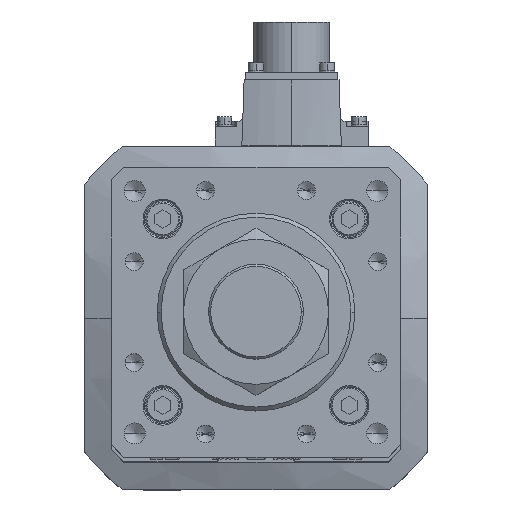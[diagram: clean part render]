
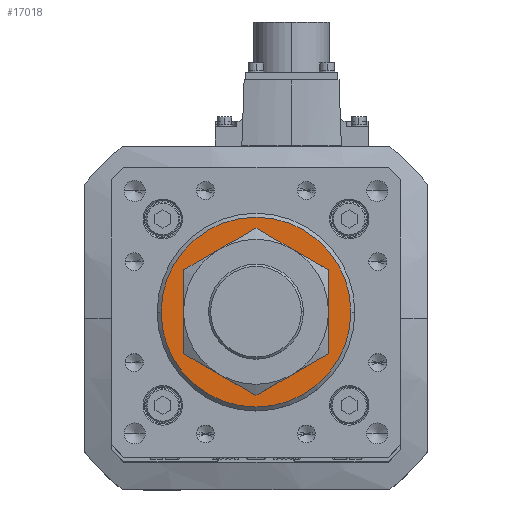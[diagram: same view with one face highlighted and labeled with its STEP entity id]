
A CAD part, top view. The second image highlights one B-rep face of the part: STEP entity #17018.
In plain terms, the highlighted planar face has unit normal (0, 0, 1).
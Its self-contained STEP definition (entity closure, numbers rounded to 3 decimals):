
#2437 = VERTEX_POINT ( 'NONE', #7601 ) ;
#3009 = FACE_BOUND ( 'NONE', #26597, .T. ) ;
#4341 = DIRECTION ( 'NONE',  ( 0., 0., 1. ) ) ;
#4764 = ORIENTED_EDGE ( 'NONE', *, *, #21523, .T. ) ;
#4985 = CARTESIAN_POINT ( 'NONE',  ( -23., 0., 1046. ) ) ;
#5706 = CIRCLE ( 'NONE', #35405, 36. ) ;
#7234 = CIRCLE ( 'NONE', #16959, 36. ) ;
#7601 = CARTESIAN_POINT ( 'NONE',  ( -36., 0., 1046. ) ) ;
#8125 = CARTESIAN_POINT ( 'NONE',  ( 0., 0., 1046. ) ) ;
#8464 = EDGE_CURVE ( 'NONE', #28778, #2437, #5706, .T. ) ;
#8491 = DIRECTION ( 'NONE',  ( 0., 0., -1. ) ) ;
#10481 = CARTESIAN_POINT ( 'NONE',  ( 36., 0., 1046. ) ) ;
#12954 = DIRECTION ( 'NONE',  ( 1., 0., 0. ) ) ;
#16959 = AXIS2_PLACEMENT_3D ( 'NONE', #31244, #25379, #28565 ) ;
#17018 = ADVANCED_FACE ( 'NONE', ( #3009, #35771 ), #27898, .T. ) ;
#19622 = AXIS2_PLACEMENT_3D ( 'NONE', #25581, #31196, #37055 ) ;
#19791 = EDGE_CURVE ( 'NONE', #32118, #35033, #27346, .T. ) ;
#20535 = EDGE_CURVE ( 'NONE', #2437, #28778, #7234, .T. ) ;
#21523 = EDGE_CURVE ( 'NONE', #35033, #32118, #29459, .T. ) ;
#21909 = ORIENTED_EDGE ( 'NONE', *, *, #19791, .T. ) ;
#23130 = EDGE_LOOP ( 'NONE', ( #32860, #33573 ) ) ;
#24570 = CARTESIAN_POINT ( 'NONE',  ( 0., 0., 1046. ) ) ;
#25379 = DIRECTION ( 'NONE',  ( 0., 0., 1. ) ) ;
#25581 = CARTESIAN_POINT ( 'NONE',  ( 0., 0., 1046. ) ) ;
#26045 = AXIS2_PLACEMENT_3D ( 'NONE', #8125, #8491, #28889 ) ;
#26597 = EDGE_LOOP ( 'NONE', ( #4764, #21909 ) ) ;
#27346 = CIRCLE ( 'NONE', #19622, 23. ) ;
#27898 = PLANE ( 'NONE',  #36123 ) ;
#28022 = CARTESIAN_POINT ( 'NONE',  ( 0., 0., 1046. ) ) ;
#28565 = DIRECTION ( 'NONE',  ( 1., 0., 0. ) ) ;
#28778 = VERTEX_POINT ( 'NONE', #10481 ) ;
#28889 = DIRECTION ( 'NONE',  ( 1., 0., 0. ) ) ;
#29459 = CIRCLE ( 'NONE', #26045, 23. ) ;
#29566 = CARTESIAN_POINT ( 'NONE',  ( 23., 0., 1046. ) ) ;
#31196 = DIRECTION ( 'NONE',  ( 0., 0., -1. ) ) ;
#31244 = CARTESIAN_POINT ( 'NONE',  ( 0., 0., 1046. ) ) ;
#32118 = VERTEX_POINT ( 'NONE', #4985 ) ;
#32860 = ORIENTED_EDGE ( 'NONE', *, *, #20535, .T. ) ;
#33573 = ORIENTED_EDGE ( 'NONE', *, *, #8464, .T. ) ;
#33878 = DIRECTION ( 'NONE',  ( 1., 0., 0. ) ) ;
#35033 = VERTEX_POINT ( 'NONE', #29566 ) ;
#35405 = AXIS2_PLACEMENT_3D ( 'NONE', #24570, #4341, #12954 ) ;
#35771 = FACE_OUTER_BOUND ( 'NONE', #23130, .T. ) ;
#36123 = AXIS2_PLACEMENT_3D ( 'NONE', #28022, #37064, #33878 ) ;
#37055 = DIRECTION ( 'NONE',  ( 1., 0., 0. ) ) ;
#37064 = DIRECTION ( 'NONE',  ( 0., 0., 1. ) ) ;
